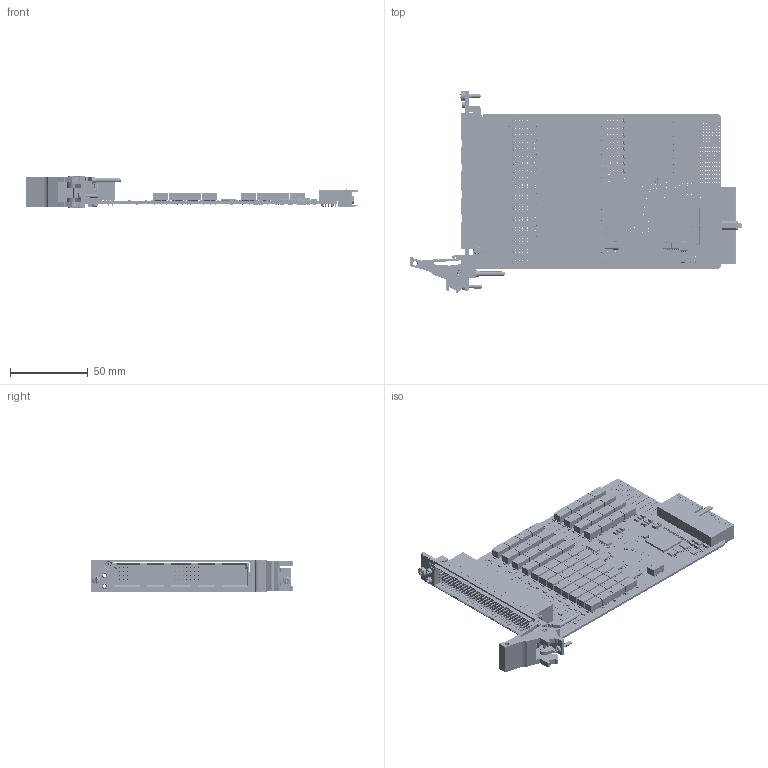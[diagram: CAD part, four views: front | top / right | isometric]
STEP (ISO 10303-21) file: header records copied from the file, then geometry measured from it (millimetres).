
FILE_DESCRIPTION (( 'STEP AP214' ), '1' );
FILE_NAME ('40-614D-020-M PXI High Density 2A Multiplexer 1-Bank 4-Channel 32-Pole.step', '2025-03-27T11:19:54', ( '' ), ( '' ), 'SwSTEP 2.0', 'SolidWorks 2023', '' );
FILE_SCHEMA (( 'AUTOMOTIVE_DESIGN' ));
Length unit declared in the file: millimetre
Products named in the file (65): L-FP-499 Label for C-FP-499 assy; C-CP-141 CAP 10UF 1206 35V X5R 10%; C-FX-101 Screw, M2.5 x 6, Pan Hd, Pozi, Steel, BZP; C-IC-598 64Mbit Flash Memory 8-Pin SOIC; C-RS-147 Res 100R 0603 1-16W 1% 100PPM; C-CN-1071; C-RL-257 50Mw 5V Short Pin Relay_Diode clearance ; C-FX-165 Handle Finger; C-CN-355 Compact pci connector 3; C-BP-015 PXI 3U x 1 Slot Blank Panel; C-FX-544 2.5 Self Clinching Tourque nut; C-IC-425 SOICN 8PIN SD; C-CP-175 CAP 22uF 1206 25V X5R 10%; C-CN-161 Pin_Row A; C-FX-165 CPCI Ejector Handle; C-FX-456 PXI 1-Slot Mtg Block DIN 41612; C-IC-369 FPGA 17000 Cells 65nm Technology 1.2V 256-Pin FTBGA; C-CN-107-PIN; A-FP-499-L1 PXI 3U 1SLT 160Way FP Full Assembly; C-RS-521 Res 120R (0603) 1-16W 1% 100pp; C-IC-546 24 BIT BUS SWITCH 56PIN TVSOP; Z-FX-2001 FP Fixing - Bush + Screw; C-RS-148 Res 1K 0603 1-16W 1% 100PPM; C-FX-165 Handle Pin; C-FX-297 Screw, M2.5 x 10, Pan Hd, Pozi, Steel, BZP_ISO 7045 - M2.5 x 8 - Z --- 6N; C-CN-161 Pin_Row B; C-BK-026 Bush Front Panel Mounting; C-CN-161 Housing; A-PC-1522-020-# PXI 1-Bank 4-Channel 32-Pole; C-CP-034; C-FX-1176 M2,5 Collar Posi-Slot Screw; C-MS-803 BEAD 120R 0603 2A 0R05 25%; C-CP-239  Power Line Filter; C-CN-107-BODY; C-RS-152 Res 10K 0603 1-16W 1% 300PPM; C-FP-499 PXI 3U 1-Slot 160 Way DIN 41612; C-RS-756 RES 0R 0603  200PPM; C-CN-161 DIN 41612 160Way R-A Modified; C-PC-1522 PDM PXI Very High Density Multiplexer; C-SC-056 80V 250mA (DC) SOD323 Diode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
Assembly tree (576 placements, depth 5):
  40-614D-020-M PXI High Density 2A Multiplexer 1-Bank 4-Channel 32-Pole
    A-PC-1522-020 PXI 1-Bank 4-Channel 32-Pole
      A-PC-1522-020-# PXI 1-Bank 4-Channel 32-Pole
        C-PC-1522 PDM PXI Very High Density Multiplexer
        C-CP-034  x22
        C-RS-147 Res 100R 0603 1-16W 1% 100PPM
        C-RS-152 Res 10K 0603 1-16W 1% 300PPM  x2
        C-RS-190 Res 0R0 SIZE 0603 SMT  x6
        C-RS-756 RES 0R 0603  200PPM  x48
        C-SC-056 80V 250mA (DC) SOD323 Diode  x149
        C-SC-168 SOT363 Complementary MOSFET 20V-8V  x2
        C-IC-550 Voltage Difference Amplifier  x5
        C-RL-257 50Mw 5V Short Pin Relay_Diode clearance   x65
        C-CP-175 CAP 22uF 1206 25V X5R 10%  x2
        C-CP-141 CAP 10UF 1206 35V X5R 10%  x7
        C-CP-099 CAP 0.1uF 16V 0402 SMT  x12
        C-IC-489 F-RAM Semiconductor Serial-I2C FRAM Memory 512kbit 2-3.6 V 8-Pin SOIC
        C-IC-425 SOICN 8PIN SD
        C-IC-598 64Mbit Flash Memory 8-Pin SOIC
        C-IC-442 VSSOP 8PIN SD
        C-IC-458 LDO VOLTAGE REGULATOR 1.2V SOT
        C-IC-546 24 BIT BUS SWITCH 56PIN TVSOP  x2
        C-IC-369 FPGA 17000 Cells 65nm Technology 1.2V 256-Pin FTBGA
        C-RS-148 Res 1K 0603 1-16W 1% 100PPM  x2
        C-RS-659 RES NW 4K7 4RES 8PINS SMT1206  x4
        C-RS-521 Res 120R (0603) 1-16W 1% 100pp
        C-SC-146 Dual Transistor SOT-14  x2
        C-MS-803 BEAD 120R 0603 2A 0R05 25%  x2
        C-CN-1071
          C-CN-107-BODY
          C-CN-107-PIN  x8
        C-CP-124 CAP 10nF CERAMIC SMT 0402  x29
        C-CP-130 CAP 1uF CERAMIC SMT 0603  x2
        C-CP-139 CAP 4.7UF 1206 16V X7R 10%  x2
        C-CP-239  Power Line Filter  x3
        C-CN-355 Compact pci connector 3
    A-FP-499-L1 PXI 3U 1SLT 160Way FP Full Assembly
      A-FP-499 PXI 3U 1-Slot 160 Way DIN 41612
        C-FP-499 PXI 3U 1-Slot 160 Way DIN 41612
          C-BP-015 PXI 3U x 1 Slot Blank Panel
        L-FP-499 Label for C-FP-499 assy
          L-FP-499-# Label for C-FP-499_Výchozí
        C-FX-544 2.5 Self Clinching Tourque nut  x2
      C-FX-165 CPCI Ejector Handle
        C-FX-165 Handle Body
        C-FX-165 Handle Finger
        C-FX-165 Handle Pin
        P-FX-017 M2,5 Collar Posi-Slot Screw
        L-FX-165 PXI Handle Label
      C-FX-456 PXI 1-Slot Mtg Block DIN 41612
      C-FX-042 Screw M2.5x6 CSK Pozi_M 2.5x06 - C-FX-042
      Z-FX-2001 FP Fixing - Bush + Screw
        C-BK-026 Bush Front Panel Mounting
        C-FX-1176 M2,5 Collar Posi-Slot Screw
      C-FX-101 Screw, M2.5 x 6, Pan Hd, Pozi, Steel, BZP
    C-CN-161 DIN 41612 160Way R-A Modified
      C-CN-161 Housing
      C-CN-161 Pin_Row E  x32
      C-CN-161 Pin_Row D  x32
      C-CN-161 Pin_Row C  x32
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Bounding box: 213.7 x 129.63 x 20 mm (x, y, z)
Volume: 88305.4 mm3; surface area: 106369.4 mm2
Topology: 570 solids, 589 shells, 35411 faces, 89017 edges, 55708 vertices
Faces by surface type: plane 21921, cylinder 10699, sphere 1204, cone 844, torus 582, bspline 161
Entity records: 503900 total; most frequent: CARTESIAN_POINT 72558, DIRECTION 66995, ORIENTED_EDGE 62430, EDGE_CURVE 31217, AXIS2_PLACEMENT_3D 24857, VERTEX_POINT 20090, LINE 17281, VECTOR 17281
